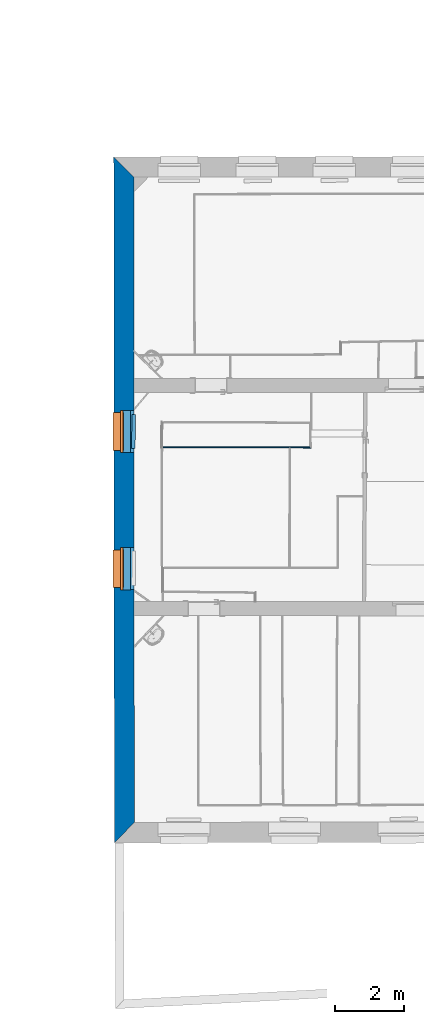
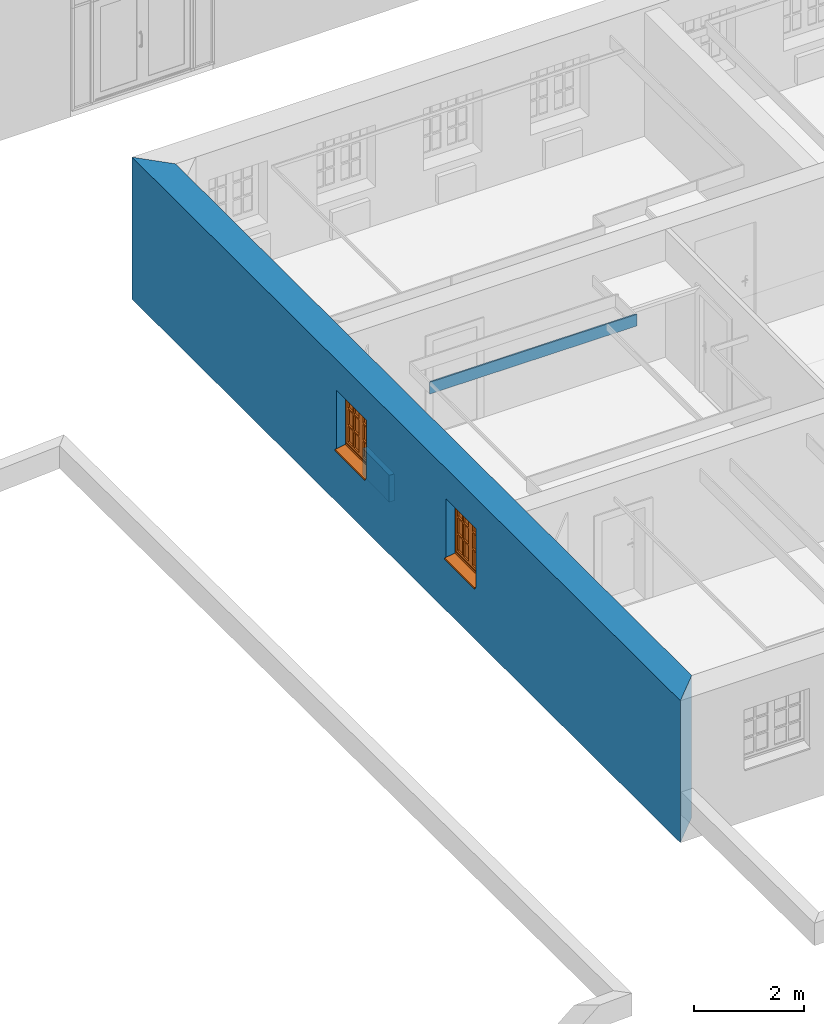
# One storey, part 22 of 196: 3 walls, 2 proxies, 4 openings.
"""IFC2X3 building model written with IfcOpenShell, lengths in metres."""

from ifc_helpers import new_model, entity, si_unit, converted_unit, derived_unit, money_unit, direction, frame, origin_with_axes, origin_2d_with_axis, place, context, subcontext, project, spatial, polyline, rectangle, outline, extrude, open_shell, faceted_brep, surface_model, source, transform, mapped, material, layer, layer_set, layer_usage, type_object, element, fill, save


model = new_model("IFC2X3")

# Units and contexts
model_context = context("Model", 3, precision=1e-05, world=origin_with_axes(), true_north=direction((0.0, 1.0)))
body_context = subcontext(model_context, "Body", "Model", "MODEL_VIEW")
ifc_project = project(units=[si_unit("LENGTHUNIT", "METRE"), si_unit("AREAUNIT", "SQUARE_METRE"), si_unit("VOLUMEUNIT", "CUBIC_METRE"), converted_unit("PLANEANGLEUNIT", "DEGREE", entity("IfcPlaneAngleMeasure", 0.0174532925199), si_unit("PLANEANGLEUNIT", "RADIAN"), dimensions=[0, 0, 0, 0, 0, 0, 0]), money_unit("EUR"), converted_unit("TIMEUNIT", "Year", entity("IfcTimeMeasure", 31556926.0), si_unit("TIMEUNIT", "SECOND"), dimensions=[0, 0, 1, 0, 0, 0, 0]), si_unit("MASSUNIT", "GRAM", prefix="KILO"), si_unit("THERMODYNAMICTEMPERATUREUNIT", "DEGREE_CELSIUS"), si_unit("LUMINOUSINTENSITYUNIT", "LUMEN"), si_unit("ENERGYUNIT", "JOULE", prefix="MEGA"), derived_unit("THERMALCONDUCTANCEUNIT", [(si_unit("POWERUNIT", "WATT"), 1), (si_unit("LENGTHUNIT", "METRE"), -1), (si_unit("THERMODYNAMICTEMPERATUREUNIT", "KELVIN"), -1)]), derived_unit("SPECIFICHEATCAPACITYUNIT", [(si_unit("ENERGYUNIT", "JOULE"), 1), (si_unit("MASSUNIT", "GRAM", prefix="KILO"), -1), (si_unit("THERMODYNAMICTEMPERATUREUNIT", "KELVIN"), -1)]), derived_unit("MASSDENSITYUNIT", [(si_unit("MASSUNIT", "GRAM", prefix="KILO"), 1), (si_unit("VOLUMEUNIT", "CUBIC_METRE"), -1)])], contexts=[model_context])

# Site, building, storey
site_placement = place(None, origin_with_axes())
site = spatial("IfcSite", under=ifc_project, at=site_placement, Name="Gelände", CompositionType="ELEMENT")
building_placement = place(site_placement, origin_with_axes())
building = spatial("IfcBuilding", under=site, at=building_placement, Name="Gebäude", CompositionType="ELEMENT")
storey_placement = place(building_placement, frame((0.0, 0.0, -3.0), z_axis=(0.0, 0.0, 1.0), x_axis=(1.0, 0.0, 0.0)))
storey = spatial("IfcBuildingStorey", under=building, at=storey_placement, Name="KELLERGESCHOSS", CompositionType="ELEMENT", Elevation=-3.0)

# Walls
ifc_material_1 = material(Name="43_Gipskarton")
ifc_layer_1 = layer(ifc_material_1, 0.03, ventilated="UNKNOWN")
ifc_layer_set_1 = layer_set([ifc_layer_1], Name="43_Gipskarton 0.03")
ifc_layer_usage_1 = layer_usage(ifc_layer_set_1, "AXIS2", "NEGATIVE", 0.0)
wall_type_1 = type_object("IfcWallType", Name="43_Gipskarton 30", PredefinedType="ELEMENTEDWALL")
wall_1_placement = place(storey_placement, frame((-22.4046540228, 17.6539421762, 2.16), z_axis=(0.0, 0.0, 1.0), x_axis=(-0.999995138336, 0.00311822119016, 0.0)))
element("IfcWallStandardCase", 1, at=wall_1_placement, inside=storey, type_object=wall_type_1, material=ifc_layer_usage_1, Name="Wand-046", ObjectType="ELEMENTEDWALL", context=body_context, shape_type="SweptSolid", body=[
    extrude(outline(polyline([(0.0303436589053, -0.03), (4.31351264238, -0.03), (4.34365927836, 0.0), (0.0, 0.0), (0.0303436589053, -0.03)])), origin_with_axes(), (0.0, 0.0, 1.0), 0.26),
])
ifc_material_2 = material(Name="01_ALLGEMEIN - BAUTEIL")
ifc_layer_2 = layer(ifc_material_2, 0.105, ventilated="UNKNOWN")
ifc_layer_set_2 = layer_set([ifc_layer_2], Name="01_ALLGEMEIN - BAUTEIL 0.105")
ifc_layer_usage_2 = layer_usage(ifc_layer_set_2, "AXIS2", "NEGATIVE", 0.105)
wall_type_2 = type_object("IfcWallType", Name="01_ALLGEMEIN - BAUTEIL 105", PredefinedType="ELEMENTEDWALL")
wall_2_placement = place(storey_placement, frame((-27.5079004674, 17.6369592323, 0.0805299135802), z_axis=(0.0, 0.0, 1.0), x_axis=(0.0136940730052, 0.999906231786, 0.0)))
element("IfcWallStandardCase", 2, at=wall_2_placement, inside=storey, type_object=wall_type_2, material=ifc_layer_usage_2, Name="Wand-036", ObjectType="ELEMENTEDWALL", context=body_context, shape_type="SweptSolid", body=[
    extrude(outline(polyline([(0.0, 0.0), (0.993754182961, 0.0), (0.993754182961, 0.105), (0.0, 0.105), (0.0, 0.0)])), origin_with_axes(), (0.0, 0.0, 1.0), 0.597873),
])

# Wall, openings, proxies
ifc_material_3 = material(Name="05_ALLGEMEIN - TRAGENDE BAUTEILE")
ifc_layer_3 = layer(ifc_material_3, 0.58, ventilated="UNKNOWN")
ifc_layer_set_3 = layer_set([ifc_layer_3], Name="05_ALLGEMEIN - TRAGENDE BAUTEILE 0.58")
ifc_layer_usage_3 = layer_usage(ifc_layer_set_3, "AXIS2", "NEGATIVE", 0.58)
wall_type_3 = type_object("IfcWallType", Name="05_ALLGEMEIN - TRAGENDE BAUTEILE 580", PredefinedType="ELEMENTEDWALL")
wall_3_placement = place(storey_placement, frame((-28.1284290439, 26.092326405, -0.36), z_axis=(0.0, 0.0, 1.0), x_axis=(0.000934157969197, -0.999999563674, 0.0)))
wall_3 = element("IfcWallStandardCase", 3, at=wall_3_placement, inside=storey, type_object=wall_type_3, material=ifc_layer_usage_3, Name="Wand-029", ObjectType="ELEMENTEDWALL", context=body_context, shape_type="SweptSolid", body=[
    extrude(outline(polyline([(0.0, 0.0), (19.8922816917, 0.0), (19.301589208, 0.58), (0.580154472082, 0.58), (0.0, 0.0)])), origin_with_axes(), (0.0, 0.0, 1.0), 3.15),
])
opening_1_placement = place(wall_3_placement, frame((11.9352104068, 0.0, 1.16872266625), z_axis=(0.0, 0.0, 1.0), x_axis=(1.0, 0.0, 0.0)))
opening_1 = element("IfcOpeningElement", 4, at=opening_1_placement, cuts=wall_3, Name="Fenster-015", context=body_context, shape_type="SweptSolid", body=[
    extrude(rectangle(XDim=1.23, YDim=1.37626033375, at=origin_2d_with_axis()), frame((0.0, 0.187384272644, 0.688130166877), z_axis=(0.0, -1.0, 0.0), x_axis=(1.0, 0.0, 0.0)), (0.0, 0.0, -1.0), 0.972615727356),
    extrude(rectangle(XDim=1.09, YDim=1.30626033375, at=origin_2d_with_axis()), frame((0.0, 0.187384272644, 0.653130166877), z_axis=(0.0, 1.0, 0.0), x_axis=(1.0, 0.0, 0.0)), (0.0, 0.0, -1.0), 0.767384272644),
])
opening_2_placement = place(wall_3_placement, frame((7.9599563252, 0.0, 1.16872266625), z_axis=(0.0, 0.0, 1.0), x_axis=(1.0, 0.0, 0.0)))
opening_2 = element("IfcOpeningElement", 5, at=opening_2_placement, cuts=wall_3, Name="Fenster-015", context=body_context, shape_type="SweptSolid", body=[
    extrude(rectangle(XDim=1.23, YDim=1.37626033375, at=origin_2d_with_axis()), frame((0.0, 0.187384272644, 0.688130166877), z_axis=(0.0, -1.0, 0.0), x_axis=(1.0, 0.0, 0.0)), (0.0, 0.0, -1.0), 0.972615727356),
    extrude(rectangle(XDim=1.09, YDim=1.30626033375, at=origin_2d_with_axis()), frame((0.0, 0.187384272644, 0.653130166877), z_axis=(0.0, 1.0, 0.0), x_axis=(1.0, 0.0, 0.0)), (0.0, 0.0, -1.0), 0.767384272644),
])
opening_3_placement = place(wall_3_placement, frame((7.9599563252, 0.0, 0.32), z_axis=(0.0, 0.0, 1.0), x_axis=(1.0, 0.0, 0.0)))
element("IfcOpeningElement", 6, at=opening_3_placement, cuts=wall_3, Name="Fenster-016", ObjectType="Recess", context=body_context, shape_type="SweptSolid", body=[
    extrude(rectangle(XDim=1.23, YDim=0.848722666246, at=origin_2d_with_axis()), frame((0.0, 0.477510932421, 0.424361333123), z_axis=(0.0, 1.0, 0.0), x_axis=(-1.0, 0.0, 0.0)), (0.0, 0.0, 1.0), 0.682489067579),
])
opening_4_placement = place(wall_3_placement, frame((11.9352104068, 0.0, 0.32), z_axis=(0.0, 0.0, 1.0), x_axis=(1.0, 0.0, 0.0)))
element("IfcOpeningElement", 7, at=opening_4_placement, cuts=wall_3, Name="Fenster-016", ObjectType="Recess", context=body_context, shape_type="SweptSolid", body=[
    extrude(rectangle(XDim=1.23, YDim=0.848722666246, at=origin_2d_with_axis()), frame((0.0, 0.477510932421, 0.424361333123), z_axis=(0.0, 1.0, 0.0), x_axis=(-1.0, 0.0, 0.0)), (0.0, 0.0, 1.0), 0.682489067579),
])
building_element_proxy_type = type_object("IfcBuildingElementProxyType", Name="2-Flügelfenster 25", PredefinedType="NOTDEFINED")
shared_shape = source(origin_with_axes(), body_context, "Body", "SurfaceModel", [
    surface_model("IfcShellBasedSurfaceModel", [(-0.545, -0.071, 0.05), (-0.545, -0.071, 0.04), (0.545, -0.071, 0.04), (0.545, -0.071, 0.05), (-0.545, -0.287384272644, 0.00519703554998), (0.545, -0.287384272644, 0.00519703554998), (-0.545, -0.287384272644, -0.02480296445), (0.545, -0.287384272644, -0.02480296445), (-0.545, -0.272384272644, -0.00980296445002), (0.545, -0.272384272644, -0.00980296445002)], [open_shell([[[0, 1, 2, 3]], [[1, 4, 5, 2]], [[4, 6, 7, 5]], [[6, 8, 9, 7]]])]),
    faceted_brep([(-0.545, -0.07, 0.0389871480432), (-0.545, -0.257384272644, 0.00884850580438), (0.545, -0.257384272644, 0.00884850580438), (0.545, -0.07, 0.0389871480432), (-0.545, -0.07, 0.0), (-0.545, -0.257384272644, 0.0), (0.545, -0.257384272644, 0.0), (0.545, -0.07, 0.0)], [[[0, 1, 2, 3]], [[0, 4, 5, 1]], [[1, 5, 6, 2]], [[3, 2, 6, 7]], [[4, 0, 3, 7]], [[5, 4, 7, 6]]]),
    faceted_brep([(-0.615, -0.07, 0.0), (-0.615, 0.0, 0.0), (-0.535, 0.0, 0.08), (-0.535, -0.07, 0.08), (-0.615, -0.07, 1.37626033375), (-0.615, 0.0, 1.37626033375), (-0.535, 0.0, 1.29626033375), (-0.535, -0.07, 1.29626033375)], [[[0, 1, 2, 3]], [[4, 5, 1, 0]], [[1, 5, 6, 2]], [[3, 2, 6, 7]], [[0, 3, 7, 4]], [[7, 6, 5, 4]]]),
    faceted_brep([(0.615, -0.07, 0.0), (0.615, 0.0, 0.0), (0.615, 0.0, 1.37626033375), (0.615, -0.07, 1.37626033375), (0.535, -0.07, 0.08), (0.535, 0.0, 0.08), (0.535, 0.0, 1.29626033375), (0.535, -0.07, 1.29626033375)], [[[0, 1, 2, 3]], [[4, 5, 1, 0]], [[1, 5, 6, 2]], [[3, 2, 6, 7]], [[0, 3, 7, 4]], [[7, 6, 5, 4]]]),
    faceted_brep([(-0.615, -0.07, 0.0), (-0.615, 0.0, 0.0), (0.615, 0.0, 0.0), (0.615, -0.07, 0.0), (-0.535, -0.07, 0.08), (-0.535, 0.0, 0.08), (0.0, 0.0, 0.08), (0.535, 0.0, 0.08), (0.535, -0.07, 0.08), (0.0, -0.07, 0.08)], [[[0, 1, 2, 3]], [[4, 5, 1, 0]], [[1, 5, 6, 7, 2]], [[3, 2, 7, 8]], [[0, 3, 8, 9, 4]], [[9, 6, 5, 4]], [[8, 7, 6, 9]]]),
    faceted_brep([(-0.615, -0.07, 1.37626033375), (-0.615, 0.0, 1.37626033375), (-0.535, 0.0, 1.29626033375), (-0.535, -0.07, 1.29626033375), (0.615, -0.07, 1.37626033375), (0.615, 0.0, 1.37626033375), (0.535, 0.0, 1.29626033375), (0.0, 0.0, 1.29626033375), (0.0, -0.07, 1.29626033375), (0.535, -0.07, 1.29626033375)], [[[0, 1, 2, 3]], [[4, 5, 1, 0]], [[1, 5, 6, 7, 2]], [[3, 2, 7, 8]], [[0, 3, 8, 9, 4]], [[9, 6, 5, 4]], [[8, 7, 6, 9]]]),
    faceted_brep([(-0.555, 0.0, 0.06), (-0.555, 0.013, 0.06), (-0.475, 0.013, 0.14), (-0.475, 0.0, 0.14), (-0.555, 0.0, 1.31626033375), (-0.555, 0.013, 1.31626033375), (-0.475, 0.013, 1.23626033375), (-0.475, 0.0, 1.23626033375)], [[[0, 1, 2, 3]], [[4, 5, 1, 0]], [[1, 5, 6, 2]], [[3, 2, 6, 7]], [[0, 3, 7, 4]], [[7, 6, 5, 4]]]),
    faceted_brep([(-0.01, 0.0, 0.06), (-0.01, 0.013, 0.06), (-0.01, 0.013, 1.31626033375), (-0.01, 0.0, 1.31626033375), (-0.07, 0.0, 0.14), (-0.07, 0.013, 0.14), (-0.07, 0.013, 1.23626033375), (-0.07, 0.0, 1.23626033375)], [[[0, 1, 2, 3]], [[4, 5, 1, 0]], [[1, 5, 6, 2]], [[3, 2, 6, 7]], [[0, 3, 7, 4]], [[7, 6, 5, 4]]]),
    faceted_brep([(-0.555, 0.0, 0.06), (-0.555, 0.013, 0.06), (-0.01, 0.013, 0.06), (-0.01, 0.0, 0.06), (-0.475, 0.0, 0.14), (-0.475, 0.013, 0.14), (-0.07, 0.013, 0.14), (-0.07, 0.0, 0.14)], [[[0, 1, 2, 3]], [[4, 5, 1, 0]], [[1, 5, 6, 2]], [[3, 2, 6, 7]], [[0, 3, 7, 4]], [[7, 6, 5, 4]]]),
    faceted_brep([(-0.555, 0.0, 1.31626033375), (-0.555, 0.013, 1.31626033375), (-0.475, 0.013, 1.23626033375), (-0.475, 0.0, 1.23626033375), (-0.01, 0.0, 1.31626033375), (-0.01, 0.013, 1.31626033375), (-0.07, 0.013, 1.23626033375), (-0.07, 0.0, 1.23626033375)], [[[0, 1, 2, 3]], [[4, 5, 1, 0]], [[1, 5, 6, 2]], [[3, 2, 6, 7]], [[0, 3, 7, 4]], [[7, 6, 5, 4]]]),
    faceted_brep([(-0.535, -0.057, 0.08), (-0.535, 0.0, 0.08), (-0.475, 0.0, 0.14), (-0.475, -0.057, 0.14), (-0.535, -0.057, 1.29626033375), (-0.535, 0.0, 1.29626033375), (-0.475, 0.0, 1.23626033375), (-0.475, -0.057, 1.23626033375)], [[[0, 1, 2, 3]], [[4, 5, 1, 0]], [[1, 5, 6, 2]], [[3, 2, 6, 7]], [[0, 3, 7, 4]], [[7, 6, 5, 4]]]),
    faceted_brep([(0.01, -0.057, 0.08), (0.01, 0.0, 0.08), (0.01, 0.0, 1.29626033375), (0.01, -0.057, 1.29626033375), (-0.07, -0.057, 0.14), (-0.07, 0.0, 0.14), (-0.07, 0.0, 1.23626033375), (-0.07, -0.057, 1.23626033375)], [[[0, 1, 2, 3]], [[4, 5, 1, 0]], [[1, 5, 6, 2]], [[3, 2, 6, 7]], [[0, 3, 7, 4]], [[7, 6, 5, 4]]]),
    faceted_brep([(-0.535, -0.057, 0.08), (-0.535, 0.0, 0.08), (0.01, 0.0, 0.08), (0.01, -0.057, 0.08), (-0.475, -0.057, 0.14), (-0.475, 0.0, 0.14), (-0.07, 0.0, 0.14), (-0.07, -0.057, 0.14)], [[[0, 1, 2, 3]], [[4, 5, 1, 0]], [[1, 5, 6, 2]], [[3, 2, 6, 7]], [[0, 3, 7, 4]], [[7, 6, 5, 4]]]),
    faceted_brep([(-0.535, -0.057, 1.29626033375), (-0.535, 0.0, 1.29626033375), (-0.475, 0.0, 1.23626033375), (-0.475, -0.057, 1.23626033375), (0.01, -0.057, 1.29626033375), (0.01, 0.0, 1.29626033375), (-0.07, 0.0, 1.23626033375), (-0.07, -0.057, 1.23626033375)], [[[0, 1, 2, 3]], [[4, 5, 1, 0]], [[1, 5, 6, 2]], [[3, 2, 6, 7]], [[0, 3, 7, 4]], [[7, 6, 5, 4]]]),
    faceted_brep([(-0.29, -0.057, 0.14), (-0.29, -0.022, 0.14), (-0.255, -0.022, 0.14), (-0.255, -0.057, 0.14), (-0.29, -0.057, 1.23626033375), (-0.29, -0.022, 1.23626033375), (-0.255, -0.022, 1.23626033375), (-0.255, -0.057, 1.23626033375)], [[[0, 1, 2, 3]], [[4, 5, 1, 0]], [[1, 5, 6, 2]], [[3, 2, 6, 7]], [[0, 3, 7, 4]], [[7, 6, 5, 4]]]),
    faceted_brep([(-0.29, -0.022, 0.14), (-0.29, 0.013, 0.14), (-0.255, 0.013, 0.14), (-0.255, -0.022, 0.14), (-0.29, -0.022, 1.23626033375), (-0.29, 0.013, 1.23626033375), (-0.255, 0.013, 1.23626033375), (-0.255, -0.022, 1.23626033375)], [[[0, 1, 2, 3]], [[4, 5, 1, 0]], [[1, 5, 6, 2]], [[3, 2, 6, 7]], [[0, 3, 7, 4]], [[7, 6, 5, 4]]]),
    faceted_brep([(-0.29, -0.057, 0.482086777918), (-0.29, -0.057, 0.517086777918), (-0.475, -0.057, 0.517086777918), (-0.475, -0.057, 0.482086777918), (-0.29, -0.022, 0.517086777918), (-0.29, -0.022, 0.482086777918), (-0.475, -0.022, 0.517086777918), (-0.475, -0.022, 0.482086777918)], [[[0, 1, 2, 3]], [[4, 1, 0, 5]], [[1, 4, 6, 2]], [[6, 7, 3, 2]], [[5, 0, 3, 7]], [[4, 5, 7, 6]]]),
    faceted_brep([(-0.255, -0.022, 0.517086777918), (-0.255, -0.057, 0.517086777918), (-0.07, -0.057, 0.517086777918), (-0.07, -0.022, 0.517086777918), (-0.255, -0.057, 0.482086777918), (-0.255, -0.022, 0.482086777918), (-0.07, -0.057, 0.482086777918), (-0.07, -0.022, 0.482086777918)], [[[0, 1, 2, 3]], [[4, 1, 0, 5]], [[1, 4, 6, 2]], [[7, 3, 2, 6]], [[5, 0, 3, 7]], [[4, 5, 7, 6]]]),
    faceted_brep([(-0.29, -0.022, 0.482086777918), (-0.29, -0.022, 0.517086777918), (-0.475, -0.022, 0.517086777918), (-0.475, -0.022, 0.482086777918), (-0.29, 0.013, 0.517086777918), (-0.29, 0.013, 0.482086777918), (-0.475, 0.013, 0.517086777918), (-0.475, 0.013, 0.482086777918)], [[[0, 1, 2, 3]], [[4, 1, 0, 5]], [[1, 4, 6, 2]], [[6, 7, 3, 2]], [[5, 0, 3, 7]], [[4, 5, 7, 6]]]),
    faceted_brep([(-0.255, 0.013, 0.517086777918), (-0.255, -0.022, 0.517086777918), (-0.07, -0.022, 0.517086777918), (-0.07, 0.013, 0.517086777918), (-0.255, -0.022, 0.482086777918), (-0.255, 0.013, 0.482086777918), (-0.07, -0.022, 0.482086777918), (-0.07, 0.013, 0.482086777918)], [[[0, 1, 2, 3]], [[4, 1, 0, 5]], [[1, 4, 6, 2]], [[7, 3, 2, 6]], [[5, 0, 3, 7]], [[4, 5, 7, 6]]]),
    faceted_brep([(-0.29, -0.057, 0.859173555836), (-0.29, -0.057, 0.894173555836), (-0.475, -0.057, 0.894173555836), (-0.475, -0.057, 0.859173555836), (-0.29, -0.022, 0.894173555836), (-0.29, -0.022, 0.859173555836), (-0.475, -0.022, 0.894173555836), (-0.475, -0.022, 0.859173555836)], [[[0, 1, 2, 3]], [[4, 1, 0, 5]], [[1, 4, 6, 2]], [[6, 7, 3, 2]], [[5, 0, 3, 7]], [[4, 5, 7, 6]]]),
    faceted_brep([(-0.255, -0.022, 0.894173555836), (-0.255, -0.057, 0.894173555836), (-0.07, -0.057, 0.894173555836), (-0.07, -0.022, 0.894173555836), (-0.255, -0.057, 0.859173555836), (-0.255, -0.022, 0.859173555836), (-0.07, -0.057, 0.859173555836), (-0.07, -0.022, 0.859173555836)], [[[0, 1, 2, 3]], [[4, 1, 0, 5]], [[1, 4, 6, 2]], [[7, 3, 2, 6]], [[5, 0, 3, 7]], [[4, 5, 7, 6]]]),
    faceted_brep([(-0.29, -0.022, 0.859173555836), (-0.29, -0.022, 0.894173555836), (-0.475, -0.022, 0.894173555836), (-0.475, -0.022, 0.859173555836), (-0.29, 0.013, 0.894173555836), (-0.29, 0.013, 0.859173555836), (-0.475, 0.013, 0.894173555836), (-0.475, 0.013, 0.859173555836)], [[[0, 1, 2, 3]], [[4, 1, 0, 5]], [[1, 4, 6, 2]], [[6, 7, 3, 2]], [[5, 0, 3, 7]], [[4, 5, 7, 6]]]),
    faceted_brep([(-0.255, 0.013, 0.894173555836), (-0.255, -0.022, 0.894173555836), (-0.07, -0.022, 0.894173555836), (-0.07, 0.013, 0.894173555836), (-0.255, -0.022, 0.859173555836), (-0.255, 0.013, 0.859173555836), (-0.07, -0.022, 0.859173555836), (-0.07, 0.013, 0.859173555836)], [[[0, 1, 2, 3]], [[4, 1, 0, 5]], [[1, 4, 6, 2]], [[7, 3, 2, 6]], [[5, 0, 3, 7]], [[4, 5, 7, 6]]]),
    faceted_brep([(-0.29, -0.017, 0.859173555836), (-0.29, -0.027, 0.859173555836), (-0.29, -0.027, 0.517086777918), (-0.29, -0.017, 0.517086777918), (-0.475, -0.027, 0.859173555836), (-0.475, -0.017, 0.859173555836), (-0.475, -0.027, 0.517086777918), (-0.475, -0.017, 0.517086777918)], [[[0, 1, 2, 3]], [[4, 1, 0, 5]], [[1, 4, 6, 2]], [[2, 6, 7, 3]], [[5, 0, 3, 7]], [[4, 5, 7, 6]]]),
    faceted_brep([(-0.07, -0.027, 0.14), (-0.07, -0.017, 0.14), (-0.07, -0.017, 0.482086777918), (-0.07, -0.027, 0.482086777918), (-0.255, -0.027, 0.14), (-0.255, -0.017, 0.14), (-0.255, -0.017, 0.482086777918), (-0.255, -0.027, 0.482086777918)], [[[0, 1, 2, 3]], [[0, 4, 5, 1]], [[1, 5, 6, 2]], [[2, 6, 7, 3]], [[4, 0, 3, 7]], [[5, 4, 7, 6]]]),
    faceted_brep([(-0.29, -0.027, 0.14), (-0.29, -0.017, 0.14), (-0.29, -0.017, 0.482086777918), (-0.29, -0.027, 0.482086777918), (-0.475, -0.017, 0.14), (-0.475, -0.027, 0.14), (-0.475, -0.017, 0.482086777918), (-0.475, -0.027, 0.482086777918)], [[[0, 1, 2, 3]], [[4, 1, 0, 5]], [[1, 4, 6, 2]], [[2, 6, 7, 3]], [[5, 0, 3, 7]], [[4, 5, 7, 6]]]),
    faceted_brep([(-0.07, -0.017, 0.859173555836), (-0.07, -0.027, 0.859173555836), (-0.07, -0.027, 0.517086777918), (-0.07, -0.017, 0.517086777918), (-0.255, -0.027, 0.859173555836), (-0.255, -0.017, 0.859173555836), (-0.255, -0.027, 0.517086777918), (-0.255, -0.017, 0.517086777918)], [[[0, 1, 2, 3]], [[4, 1, 0, 5]], [[1, 4, 6, 2]], [[2, 6, 7, 3]], [[5, 0, 3, 7]], [[4, 5, 7, 6]]]),
    faceted_brep([(-0.475, -0.027, 0.894173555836), (-0.29, -0.027, 0.894173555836), (-0.29, -0.027, 1.23626033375), (-0.475, -0.027, 1.23626033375), (-0.29, -0.017, 0.894173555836), (-0.475, -0.017, 0.894173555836), (-0.29, -0.017, 1.23626033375), (-0.475, -0.017, 1.23626033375)], [[[0, 1, 2, 3]], [[4, 1, 0, 5]], [[1, 4, 6, 2]], [[7, 3, 2, 6]], [[5, 0, 3, 7]], [[4, 5, 7, 6]]]),
    faceted_brep([(-0.255, -0.027, 0.894173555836), (-0.07, -0.027, 0.894173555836), (-0.07, -0.027, 1.23626033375), (-0.255, -0.027, 1.23626033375), (-0.07, -0.017, 0.894173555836), (-0.255, -0.017, 0.894173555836), (-0.07, -0.017, 1.23626033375), (-0.255, -0.017, 1.23626033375)], [[[0, 1, 2, 3]], [[4, 1, 0, 5]], [[1, 4, 6, 2]], [[2, 6, 7, 3]], [[5, 0, 3, 7]], [[4, 5, 7, 6]]]),
    faceted_brep([(-0.01, 0.0, 0.06), (-0.01, 0.013, 0.06), (0.07, 0.013, 0.14), (0.07, 0.0, 0.14), (-0.01, 0.0, 1.31626033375), (-0.01, 0.013, 1.31626033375), (0.07, 0.013, 1.23626033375), (0.07, 0.0, 1.23626033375)], [[[0, 1, 2, 3]], [[4, 5, 1, 0]], [[1, 5, 6, 2]], [[3, 2, 6, 7]], [[0, 3, 7, 4]], [[7, 6, 5, 4]]]),
    faceted_brep([(0.555, 0.0, 0.06), (0.475, 0.0, 0.14), (0.475, 0.013, 0.14), (0.555, 0.013, 0.06), (0.555, 0.0, 1.31626033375), (0.475, 0.0, 1.23626033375), (0.475, 0.013, 1.23626033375), (0.555, 0.013, 1.31626033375)], [[[0, 1, 2, 3]], [[0, 4, 5, 1]], [[1, 5, 6, 2]], [[3, 2, 6, 7]], [[4, 0, 3, 7]], [[5, 4, 7, 6]]]),
    faceted_brep([(-0.01, 0.0, 0.06), (-0.01, 0.013, 0.06), (0.555, 0.013, 0.06), (0.555, 0.0, 0.06), (0.07, 0.0, 0.14), (0.07, 0.013, 0.14), (0.475, 0.013, 0.14), (0.475, 0.0, 0.14)], [[[0, 1, 2, 3]], [[4, 5, 1, 0]], [[1, 5, 6, 2]], [[3, 2, 6, 7]], [[0, 3, 7, 4]], [[7, 6, 5, 4]]]),
    faceted_brep([(-0.01, 0.0, 1.31626033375), (0.555, 0.0, 1.31626033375), (0.555, 0.013, 1.31626033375), (-0.01, 0.013, 1.31626033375), (0.07, 0.0, 1.23626033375), (0.475, 0.0, 1.23626033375), (0.475, 0.013, 1.23626033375), (0.07, 0.013, 1.23626033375)], [[[0, 1, 2, 3]], [[0, 4, 5, 1]], [[1, 5, 6, 2]], [[3, 2, 6, 7]], [[4, 0, 3, 7]], [[5, 4, 7, 6]]]),
    faceted_brep([(0.01, -0.057, 0.08), (0.01, 0.0, 0.08), (0.07, 0.0, 0.14), (0.07, -0.057, 0.14), (0.01, -0.057, 1.29626033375), (0.01, 0.0, 1.29626033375), (0.07, 0.0, 1.23626033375), (0.07, -0.057, 1.23626033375)], [[[0, 1, 2, 3]], [[4, 5, 1, 0]], [[1, 5, 6, 2]], [[3, 2, 6, 7]], [[0, 3, 7, 4]], [[7, 6, 5, 4]]]),
    faceted_brep([(0.535, -0.057, 0.08), (0.475, -0.057, 0.14), (0.475, 0.0, 0.14), (0.535, 0.0, 0.08), (0.535, -0.057, 1.29626033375), (0.475, -0.057, 1.23626033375), (0.475, 0.0, 1.23626033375), (0.535, 0.0, 1.29626033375)], [[[0, 1, 2, 3]], [[0, 4, 5, 1]], [[1, 5, 6, 2]], [[3, 2, 6, 7]], [[4, 0, 3, 7]], [[5, 4, 7, 6]]]),
    faceted_brep([(0.01, -0.057, 0.08), (0.01, 0.0, 0.08), (0.535, 0.0, 0.08), (0.535, -0.057, 0.08), (0.07, -0.057, 0.14), (0.07, 0.0, 0.14), (0.475, 0.0, 0.14), (0.475, -0.057, 0.14)], [[[0, 1, 2, 3]], [[4, 5, 1, 0]], [[1, 5, 6, 2]], [[3, 2, 6, 7]], [[0, 3, 7, 4]], [[7, 6, 5, 4]]]),
    faceted_brep([(0.01, -0.057, 1.29626033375), (0.535, -0.057, 1.29626033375), (0.535, 0.0, 1.29626033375), (0.01, 0.0, 1.29626033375), (0.07, -0.057, 1.23626033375), (0.475, -0.057, 1.23626033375), (0.475, 0.0, 1.23626033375), (0.07, 0.0, 1.23626033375)], [[[0, 1, 2, 3]], [[0, 4, 5, 1]], [[1, 5, 6, 2]], [[3, 2, 6, 7]], [[4, 0, 3, 7]], [[5, 4, 7, 6]]]),
    faceted_brep([(0.255, -0.057, 0.14), (0.255, -0.022, 0.14), (0.29, -0.022, 0.14), (0.29, -0.057, 0.14), (0.255, -0.057, 1.23626033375), (0.255, -0.022, 1.23626033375), (0.29, -0.022, 1.23626033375), (0.29, -0.057, 1.23626033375)], [[[0, 1, 2, 3]], [[4, 5, 1, 0]], [[1, 5, 6, 2]], [[3, 2, 6, 7]], [[0, 3, 7, 4]], [[7, 6, 5, 4]]]),
    faceted_brep([(0.255, -0.022, 0.14), (0.255, 0.013, 0.14), (0.29, 0.013, 0.14), (0.29, -0.022, 0.14), (0.255, -0.022, 1.23626033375), (0.255, 0.013, 1.23626033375), (0.29, 0.013, 1.23626033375), (0.29, -0.022, 1.23626033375)], [[[0, 1, 2, 3]], [[4, 5, 1, 0]], [[1, 5, 6, 2]], [[3, 2, 6, 7]], [[0, 3, 7, 4]], [[7, 6, 5, 4]]]),
    faceted_brep([(0.255, -0.057, 0.482086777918), (0.255, -0.057, 0.517086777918), (0.07, -0.057, 0.517086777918), (0.07, -0.057, 0.482086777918), (0.255, -0.022, 0.517086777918), (0.255, -0.022, 0.482086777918), (0.07, -0.022, 0.517086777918), (0.07, -0.022, 0.482086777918)], [[[0, 1, 2, 3]], [[4, 1, 0, 5]], [[1, 4, 6, 2]], [[6, 7, 3, 2]], [[5, 0, 3, 7]], [[4, 5, 7, 6]]]),
    faceted_brep([(0.29, -0.022, 0.517086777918), (0.29, -0.057, 0.517086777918), (0.475, -0.057, 0.517086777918), (0.475, -0.022, 0.517086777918), (0.29, -0.057, 0.482086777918), (0.29, -0.022, 0.482086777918), (0.475, -0.057, 0.482086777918), (0.475, -0.022, 0.482086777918)], [[[0, 1, 2, 3]], [[4, 1, 0, 5]], [[1, 4, 6, 2]], [[7, 3, 2, 6]], [[5, 0, 3, 7]], [[4, 5, 7, 6]]]),
    faceted_brep([(0.255, -0.022, 0.482086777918), (0.255, -0.022, 0.517086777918), (0.07, -0.022, 0.517086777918), (0.07, -0.022, 0.482086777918), (0.255, 0.013, 0.517086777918), (0.255, 0.013, 0.482086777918), (0.07, 0.013, 0.517086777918), (0.07, 0.013, 0.482086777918)], [[[0, 1, 2, 3]], [[4, 1, 0, 5]], [[1, 4, 6, 2]], [[6, 7, 3, 2]], [[5, 0, 3, 7]], [[4, 5, 7, 6]]]),
    faceted_brep([(0.29, 0.013, 0.517086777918), (0.29, -0.022, 0.517086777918), (0.475, -0.022, 0.517086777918), (0.475, 0.013, 0.517086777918), (0.29, -0.022, 0.482086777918), (0.29, 0.013, 0.482086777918), (0.475, -0.022, 0.482086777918), (0.475, 0.013, 0.482086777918)], [[[0, 1, 2, 3]], [[4, 1, 0, 5]], [[1, 4, 6, 2]], [[7, 3, 2, 6]], [[5, 0, 3, 7]], [[4, 5, 7, 6]]]),
    faceted_brep([(0.255, -0.057, 0.859173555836), (0.255, -0.057, 0.894173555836), (0.07, -0.057, 0.894173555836), (0.07, -0.057, 0.859173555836), (0.255, -0.022, 0.894173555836), (0.255, -0.022, 0.859173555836), (0.07, -0.022, 0.894173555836), (0.07, -0.022, 0.859173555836)], [[[0, 1, 2, 3]], [[4, 1, 0, 5]], [[1, 4, 6, 2]], [[6, 7, 3, 2]], [[5, 0, 3, 7]], [[4, 5, 7, 6]]]),
    faceted_brep([(0.29, -0.022, 0.894173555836), (0.29, -0.057, 0.894173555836), (0.475, -0.057, 0.894173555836), (0.475, -0.022, 0.894173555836), (0.29, -0.057, 0.859173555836), (0.29, -0.022, 0.859173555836), (0.475, -0.057, 0.859173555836), (0.475, -0.022, 0.859173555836)], [[[0, 1, 2, 3]], [[4, 1, 0, 5]], [[1, 4, 6, 2]], [[7, 3, 2, 6]], [[5, 0, 3, 7]], [[4, 5, 7, 6]]]),
    faceted_brep([(0.255, -0.022, 0.859173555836), (0.255, -0.022, 0.894173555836), (0.07, -0.022, 0.894173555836), (0.07, -0.022, 0.859173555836), (0.255, 0.013, 0.894173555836), (0.255, 0.013, 0.859173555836), (0.07, 0.013, 0.894173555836), (0.07, 0.013, 0.859173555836)], [[[0, 1, 2, 3]], [[4, 1, 0, 5]], [[1, 4, 6, 2]], [[6, 7, 3, 2]], [[5, 0, 3, 7]], [[4, 5, 7, 6]]]),
    faceted_brep([(0.29, 0.013, 0.894173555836), (0.29, -0.022, 0.894173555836), (0.475, -0.022, 0.894173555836), (0.475, 0.013, 0.894173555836), (0.29, -0.022, 0.859173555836), (0.29, 0.013, 0.859173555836), (0.475, -0.022, 0.859173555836), (0.475, 0.013, 0.859173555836)], [[[0, 1, 2, 3]], [[4, 1, 0, 5]], [[1, 4, 6, 2]], [[7, 3, 2, 6]], [[5, 0, 3, 7]], [[4, 5, 7, 6]]]),
    faceted_brep([(0.255, -0.017, 0.859173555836), (0.255, -0.027, 0.859173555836), (0.255, -0.027, 0.517086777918), (0.255, -0.017, 0.517086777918), (0.07, -0.027, 0.859173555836), (0.07, -0.017, 0.859173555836), (0.07, -0.027, 0.517086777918), (0.07, -0.017, 0.517086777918)], [[[0, 1, 2, 3]], [[4, 1, 0, 5]], [[1, 4, 6, 2]], [[2, 6, 7, 3]], [[5, 0, 3, 7]], [[4, 5, 7, 6]]]),
    faceted_brep([(0.475, -0.027, 0.14), (0.475, -0.017, 0.14), (0.475, -0.017, 0.482086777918), (0.475, -0.027, 0.482086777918), (0.29, -0.027, 0.14), (0.29, -0.017, 0.14), (0.29, -0.017, 0.482086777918), (0.29, -0.027, 0.482086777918)], [[[0, 1, 2, 3]], [[0, 4, 5, 1]], [[1, 5, 6, 2]], [[2, 6, 7, 3]], [[4, 0, 3, 7]], [[5, 4, 7, 6]]]),
    faceted_brep([(0.255, -0.027, 0.14), (0.255, -0.017, 0.14), (0.255, -0.017, 0.482086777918), (0.255, -0.027, 0.482086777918), (0.07, -0.017, 0.14), (0.07, -0.027, 0.14), (0.07, -0.017, 0.482086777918), (0.07, -0.027, 0.482086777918)], [[[0, 1, 2, 3]], [[4, 1, 0, 5]], [[1, 4, 6, 2]], [[2, 6, 7, 3]], [[5, 0, 3, 7]], [[4, 5, 7, 6]]]),
    faceted_brep([(0.475, -0.017, 0.859173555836), (0.475, -0.027, 0.859173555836), (0.475, -0.027, 0.517086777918), (0.475, -0.017, 0.517086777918), (0.29, -0.027, 0.859173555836), (0.29, -0.017, 0.859173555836), (0.29, -0.027, 0.517086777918), (0.29, -0.017, 0.517086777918)], [[[0, 1, 2, 3]], [[4, 1, 0, 5]], [[1, 4, 6, 2]], [[2, 6, 7, 3]], [[5, 0, 3, 7]], [[4, 5, 7, 6]]]),
    faceted_brep([(0.07, -0.027, 0.894173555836), (0.255, -0.027, 0.894173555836), (0.255, -0.027, 1.23626033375), (0.07, -0.027, 1.23626033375), (0.255, -0.017, 0.894173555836), (0.07, -0.017, 0.894173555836), (0.255, -0.017, 1.23626033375), (0.07, -0.017, 1.23626033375)], [[[0, 1, 2, 3]], [[4, 1, 0, 5]], [[1, 4, 6, 2]], [[7, 3, 2, 6]], [[5, 0, 3, 7]], [[4, 5, 7, 6]]]),
    faceted_brep([(0.29, -0.027, 0.894173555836), (0.475, -0.027, 0.894173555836), (0.475, -0.027, 1.23626033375), (0.29, -0.027, 1.23626033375), (0.475, -0.017, 0.894173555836), (0.29, -0.017, 0.894173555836), (0.475, -0.017, 1.23626033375), (0.29, -0.017, 1.23626033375)], [[[0, 1, 2, 3]], [[4, 1, 0, 5]], [[1, 4, 6, 2]], [[2, 6, 7, 3]], [[5, 0, 3, 7]], [[4, 5, 7, 6]]]),
])
proxy_1_placement = place(opening_1_placement, frame((-0.615, 0.0, 0.0), z_axis=(0.0, 0.0, 1.0), x_axis=(1.0, 0.0, 0.0)))
proxy_1 = element("IfcBuildingElementProxy", 8, at=proxy_1_placement, inside=storey, type_object=building_element_proxy_type, Name="Fenster-015", context=body_context, shape_type="MappedRepresentation", body=[
    mapped(shared_shape, transform((0.615, 0.257384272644, 0.0))),
])
fill(opening_1, proxy_1)
proxy_2_placement = place(opening_2_placement, frame((-0.615, 0.0, 0.0), z_axis=(0.0, 0.0, 1.0), x_axis=(1.0, 0.0, 0.0)))
proxy_2 = element("IfcBuildingElementProxy", 9, at=proxy_2_placement, inside=storey, type_object=building_element_proxy_type, Name="Fenster-015", context=body_context, shape_type="MappedRepresentation", body=[
    mapped(shared_shape, transform((0.615, 0.257384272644, 0.0))),
])
fill(opening_2, proxy_2)

save(model, "model.ifc")
